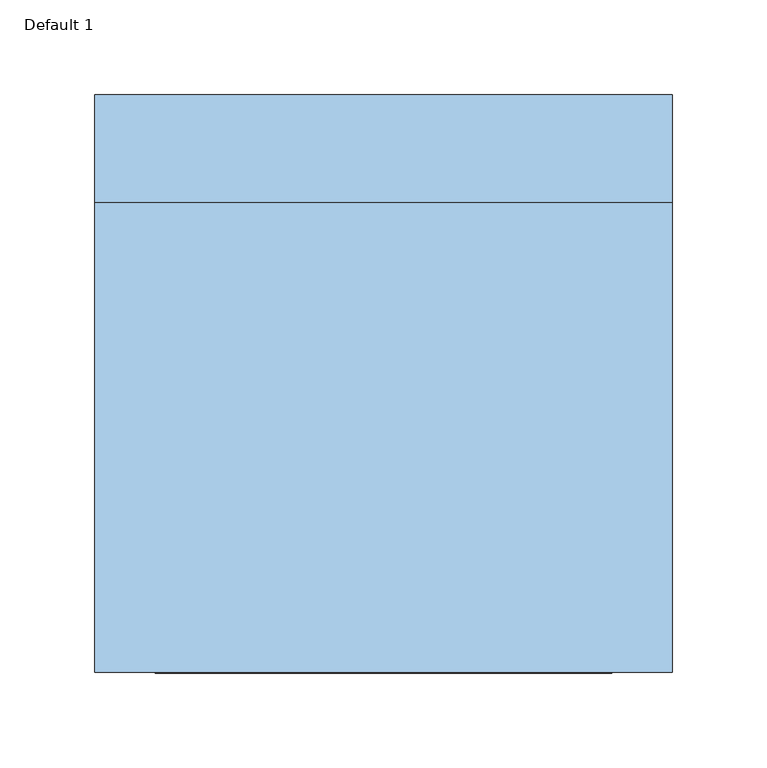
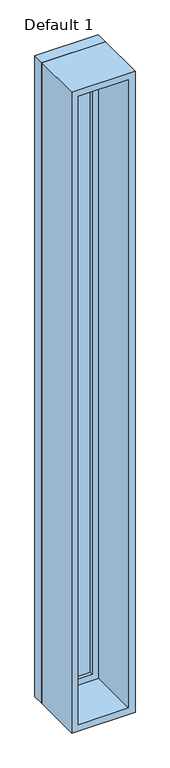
"""IFC4 building model written with IfcOpenShell, lengths in millimetres: window geometry, Planitar-Fixed : Default 1."""

from ifc_helpers import new_model, si_unit, frame, origin, place, context, project, spatial, polyline, outline, extrude, source, transform, mapped, element, save


def default_1_9af73325(model_context):
    return source(origin(), model_context, "Body", "SweptSolid", [
        extrude(outline(polyline([(4146.6, -133.4), (933.4, -133.4), (933.4, 133.4), (4146.6, 133.4), (4146.6, -133.4)]), holes=[polyline([(4102.6, -89.4), (4102.6, 89.4), (977.4, 89.4), (977.4, -89.4), (4102.6, -89.4)])]), frame((0.0, 108.7, 0.0), z_axis=(0.0, 1.0, 0.0), x_axis=(0.0, 0.0, 1.0)), (0.0, 0.0, 1.0), 44.0),
        extrude(outline(polyline([(4165.6, -152.4), (914.4, -152.4), (914.4, 152.4), (4165.6, 152.4), (4165.6, -152.4)]), holes=[polyline([(4146.6, -133.4), (4146.6, 133.4), (933.4, 133.4), (933.4, -133.4), (4146.6, -133.4)])]), frame((0.0, 108.7, 0.0), z_axis=(0.0, 1.0, 0.0), x_axis=(0.0, 0.0, 1.0)), (0.0, 0.0, 1.0), 56.7),
        extrude(outline(polyline([(4165.6, -152.4), (914.4, -152.4), (914.4, 152.4), (4165.6, 152.4), (4165.6, -152.4)]), holes=[polyline([(4133.6, -120.4), (4133.6, 120.4), (946.4, 120.4), (946.4, -120.4), (4133.6, -120.4)])]), frame((0.0, -139.4, 0.0), z_axis=(0.0, 1.0, 0.0), x_axis=(0.0, 0.0, 1.0)), (0.0, 0.0, 1.0), 248.1),
        extrude(outline(polyline([(-89.4, 136.7), (89.4, 136.7), (89.4, 124.7), (-89.4, 124.7), (-89.4, 136.7)])), frame((0.0, 0.0, 977.4), z_axis=(0.0, 0.0, 1.0), x_axis=(1.0, 0.0, 0.0)), (0.0, 0.0, 1.0), 3125.2),
    ])


if __name__ == "__main__":
    model = new_model("IFC4")
    model_context = context("Model", 3, world=origin())
    ifc_project = project(units=[si_unit("LENGTHUNIT", "METRE", prefix="MILLI")], contexts=[model_context])
    site = spatial("IfcSite", under=ifc_project)
    building = spatial("IfcBuilding", under=site)
    placement = place(None, origin())
    default_1_shape = default_1_9af73325(model_context)
    element("IfcWindow", 1, ObjectType="Planitar-Fixed : Default 1", at=placement, inside=building, context=model_context, shape_type="MappedRepresentation", body=[
        mapped(default_1_shape, transform((0.0, 0.0, 0.0), x_axis=(1.0, 0.0, 0.0), y_axis=(0.0, 1.0, 0.0), z_axis=(0.0, 0.0, 1.0))),
    ])
    save(model, "model.ifc")
